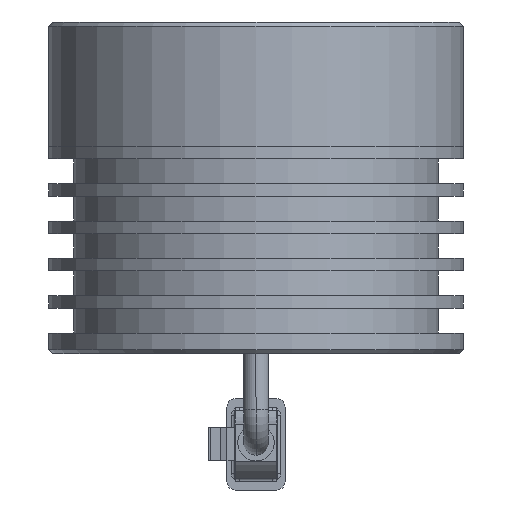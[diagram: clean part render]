
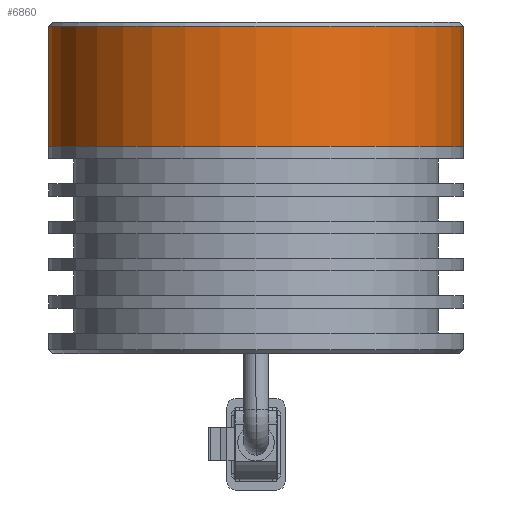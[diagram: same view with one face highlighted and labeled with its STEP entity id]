
A CAD part, front view. The second image highlights one B-rep face of the part: STEP entity #6860.
In plain terms, the highlighted cylindrical face has radius 25 mm (diameter 50 mm), a partial arc.
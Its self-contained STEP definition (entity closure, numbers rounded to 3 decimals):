
#448 = DIRECTION ( 'NONE',  ( 0., 0., -1. ) ) ;
#533 = AXIS2_PLACEMENT_3D ( 'NONE', #1077, #9647, #8598 ) ;
#1077 = CARTESIAN_POINT ( 'NONE',  ( 0., 0., 14.5 ) ) ;
#1225 = EDGE_CURVE ( 'NONE', #9608, #13718, #4781, .T. ) ;
#1297 = VECTOR ( 'NONE', #448, 1000. ) ;
#1567 = LINE ( 'NONE', #2282, #2420 ) ;
#2282 = CARTESIAN_POINT ( 'NONE',  ( -25., 0., 15. ) ) ;
#2396 = CARTESIAN_POINT ( 'NONE',  ( 0., 0., 15. ) ) ;
#2420 = VECTOR ( 'NONE', #6915, 1000. ) ;
#2586 = CARTESIAN_POINT ( 'NONE',  ( 0., 0., 0. ) ) ;
#2782 = AXIS2_PLACEMENT_3D ( 'NONE', #2396, #5629, #6688 ) ;
#3270 = ORIENTED_EDGE ( 'NONE', *, *, #12809, .F. ) ;
#3345 = CARTESIAN_POINT ( 'NONE',  ( 25., 0., 15. ) ) ;
#4768 = DIRECTION ( 'NONE',  ( 0., 0., 1. ) ) ;
#4781 = CIRCLE ( 'NONE', #533, 25. ) ;
#5556 = FACE_OUTER_BOUND ( 'NONE', #9441, .T. ) ;
#5576 = CARTESIAN_POINT ( 'NONE',  ( 25., 0., 14.5 ) ) ;
#5629 = DIRECTION ( 'NONE',  ( 0., 0., -1. ) ) ;
#6252 = AXIS2_PLACEMENT_3D ( 'NONE', #2586, #4768, #6896 ) ;
#6688 = DIRECTION ( 'NONE',  ( -1., 0., 0. ) ) ;
#6860 = ADVANCED_FACE ( 'NONE', ( #5556 ), #8804, .T. ) ;
#6896 = DIRECTION ( 'NONE',  ( 1., 0., 0. ) ) ;
#6915 = DIRECTION ( 'NONE',  ( 0., 0., -1. ) ) ;
#7456 = ORIENTED_EDGE ( 'NONE', *, *, #9969, .T. ) ;
#8598 = DIRECTION ( 'NONE',  ( 1., 0., 0. ) ) ;
#8777 = VERTEX_POINT ( 'NONE', #13528 ) ;
#8804 = CYLINDRICAL_SURFACE ( 'NONE', #2782, 25. ) ;
#9441 = EDGE_LOOP ( 'NONE', ( #3270, #10907, #11718, #7456 ) ) ;
#9608 = VERTEX_POINT ( 'NONE', #5576 ) ;
#9647 = DIRECTION ( 'NONE',  ( 0., 0., -1. ) ) ;
#9969 = EDGE_CURVE ( 'NONE', #10108, #8777, #10945, .T. ) ;
#10108 = VERTEX_POINT ( 'NONE', #12492 ) ;
#10203 = LINE ( 'NONE', #3345, #1297 ) ;
#10517 = CARTESIAN_POINT ( 'NONE',  ( -25., 0., 14.5 ) ) ;
#10907 = ORIENTED_EDGE ( 'NONE', *, *, #1225, .T. ) ;
#10945 = CIRCLE ( 'NONE', #6252, 25. ) ;
#11718 = ORIENTED_EDGE ( 'NONE', *, *, #12849, .T. ) ;
#12492 = CARTESIAN_POINT ( 'NONE',  ( -25., 0., 0. ) ) ;
#12809 = EDGE_CURVE ( 'NONE', #9608, #8777, #10203, .T. ) ;
#12849 = EDGE_CURVE ( 'NONE', #13718, #10108, #1567, .T. ) ;
#13528 = CARTESIAN_POINT ( 'NONE',  ( 25., 0., 0. ) ) ;
#13718 = VERTEX_POINT ( 'NONE', #10517 ) ;
